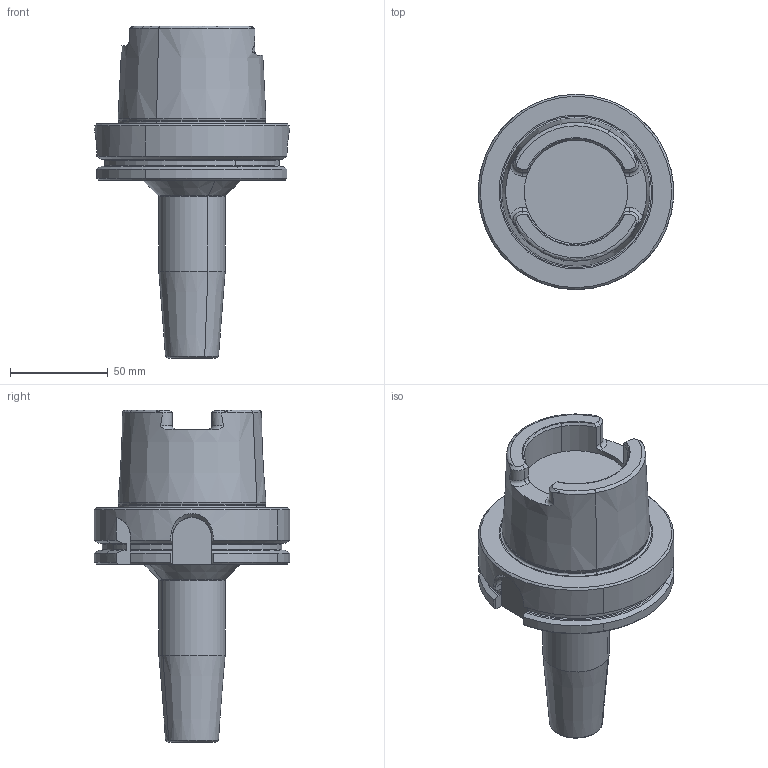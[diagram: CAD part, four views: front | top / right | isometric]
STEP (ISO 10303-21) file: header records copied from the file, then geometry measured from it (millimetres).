
FILE_DESCRIPTION(('CATIA V5 STEP Exchange','CAx-IF Rec.Pracs.--- Model Styling and Organization---1.2---2011-12-15'),'2;1');
FILE_NAME('I:\isr\design\admin8\users\tamer_s\4504216 L.stp','2014-04-03T09:04:44+00:00',('none'),('none'),'CATIA Version 5 Release 21 SP 5 (IN-10)','CATIA V5 STEP AP214','none');
FILE_SCHEMA(('AUTOMOTIVE_DESIGN { 1 0 10303 214 1 1 1 1 }'));
Length unit declared in the file: millimetre
Products named in the file (1): 60970834_0 Holder-Tool HSK A 100 SRKIN 14X120
Bounding box: 99.99 x 100 x 170 mm (x, y, z)
Volume: 463346.2 mm3; surface area: 47564.8 mm2
Topology: 1 solids, 1 shells, 153 faces, 395 edges, 247 vertices
Faces by surface type: plane 48, cone 36, cylinder 33, torus 32, bspline 2, extrusion 2
Entity records: 4865 total; most frequent: CARTESIAN_POINT 1597, ORIENTED_EDGE 790, DIRECTION 471, EDGE_CURVE 395, AXIS2_PLACEMENT_3D 249, VERTEX_POINT 247, CIRCLE 161, EDGE_LOOP 156
